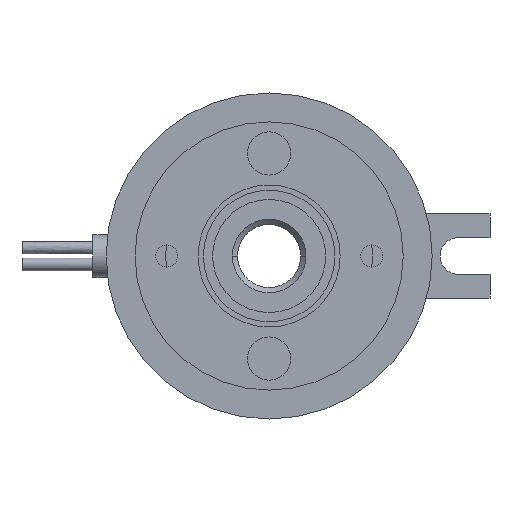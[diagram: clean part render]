
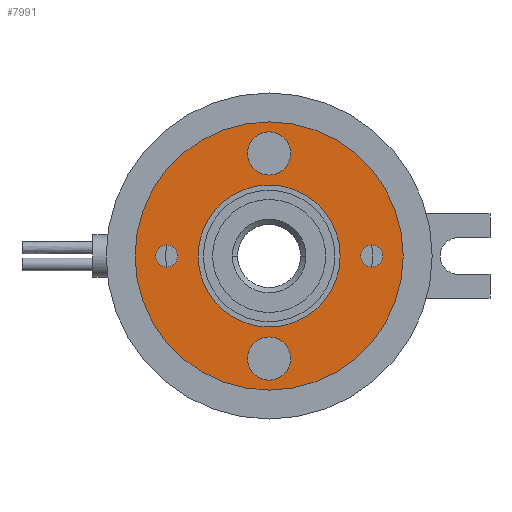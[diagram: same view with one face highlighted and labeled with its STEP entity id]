
A CAD part, left-side view. The second image highlights one B-rep face of the part: STEP entity #7991.
In plain terms, the highlighted planar face has unit normal (-1, 0, 0) as drawn and (0, 0, 1) by its records, which use the part's own axes.
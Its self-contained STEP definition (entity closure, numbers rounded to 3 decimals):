
#7573=CARTESIAN_POINT('',(-12.75,0.,0.15));
#7574=VERTEX_POINT('',#7573);
#7590=CARTESIAN_POINT('',(12.75,0.,0.15));
#7591=VERTEX_POINT('',#7590);
#7598=CARTESIAN_POINT('',(0.0,0.0,0.15));
#7599=DIRECTION('',(0.0,0.0,-1.0));
#7600=DIRECTION('',(-1.0,0.0,0.0));
#7601=AXIS2_PLACEMENT_3D('',#7598,#7599,#7600);
#7602=CIRCLE('',#7601,12.75);
#7603=EDGE_CURVE('',#7591,#7574,#7602,.T.);
#7613=CARTESIAN_POINT('',(-6.75,0.,0.15));
#7614=VERTEX_POINT('',#7613);
#7623=CARTESIAN_POINT('',(6.75,0.,0.15));
#7624=VERTEX_POINT('',#7623);
#7625=CARTESIAN_POINT('',(0.0,0.0,0.15));
#7626=DIRECTION('',(0.0,0.0,-1.0));
#7627=DIRECTION('',(-1.0,0.0,0.0));
#7628=AXIS2_PLACEMENT_3D('',#7625,#7626,#7627);
#7629=CIRCLE('',#7628,6.75);
#7630=EDGE_CURVE('',#7624,#7614,#7629,.T.);
#7657=CARTESIAN_POINT('',(-1.05,9.75,0.15));
#7658=VERTEX_POINT('',#7657);
#7674=CARTESIAN_POINT('',(1.05,9.75,0.15));
#7675=VERTEX_POINT('',#7674);
#7682=CARTESIAN_POINT('',(0.0,9.75,0.15));
#7683=DIRECTION('',(0.0,0.0,-1.0));
#7684=DIRECTION('',(-1.0,0.0,0.0));
#7685=AXIS2_PLACEMENT_3D('',#7682,#7683,#7684);
#7686=CIRCLE('',#7685,1.05);
#7687=EDGE_CURVE('',#7658,#7675,#7686,.T.);
#7699=CARTESIAN_POINT('',(9.75,1.05,0.15));
#7700=VERTEX_POINT('',#7699);
#7716=CARTESIAN_POINT('',(9.75,-1.05,0.15));
#7717=VERTEX_POINT('',#7716);
#7724=CARTESIAN_POINT('',(9.75,0.,0.15));
#7725=DIRECTION('',(0.0,0.0,-1.0));
#7726=DIRECTION('',(0.0,1.0,0.0));
#7727=AXIS2_PLACEMENT_3D('',#7724,#7725,#7726);
#7728=CIRCLE('',#7727,1.05);
#7729=EDGE_CURVE('',#7700,#7717,#7728,.T.);
#7741=CARTESIAN_POINT('',(-9.75,-1.05,0.15));
#7742=VERTEX_POINT('',#7741);
#7758=CARTESIAN_POINT('',(-9.75,1.05,0.15));
#7759=VERTEX_POINT('',#7758);
#7766=CARTESIAN_POINT('',(-9.75,0.,0.15));
#7767=DIRECTION('',(0.0,0.0,-1.0));
#7768=DIRECTION('',(0.0,-1.0,0.0));
#7769=AXIS2_PLACEMENT_3D('',#7766,#7767,#7768);
#7770=CIRCLE('',#7769,1.05);
#7771=EDGE_CURVE('',#7742,#7759,#7770,.T.);
#7783=CARTESIAN_POINT('',(1.05,-9.75,0.15));
#7784=VERTEX_POINT('',#7783);
#7800=CARTESIAN_POINT('',(-1.05,-9.75,0.15));
#7801=VERTEX_POINT('',#7800);
#7808=CARTESIAN_POINT('',(0.,-9.75,0.15));
#7809=DIRECTION('',(0.0,0.0,-1.0));
#7810=DIRECTION('',(1.0,0.0,0.0));
#7811=AXIS2_PLACEMENT_3D('',#7808,#7809,#7810);
#7812=CIRCLE('',#7811,1.05);
#7813=EDGE_CURVE('',#7784,#7801,#7812,.T.);
#7824=CARTESIAN_POINT('',(0.,-9.75,0.15));
#7825=DIRECTION('',(0.0,0.0,-1.0));
#7826=DIRECTION('',(1.0,0.0,0.0));
#7827=AXIS2_PLACEMENT_3D('',#7824,#7825,#7826);
#7828=CIRCLE('',#7827,1.05);
#7829=EDGE_CURVE('',#7801,#7784,#7828,.T.);
#7848=CARTESIAN_POINT('',(-9.75,0.,0.15));
#7849=DIRECTION('',(0.0,0.0,-1.0));
#7850=DIRECTION('',(0.0,-1.0,0.0));
#7851=AXIS2_PLACEMENT_3D('',#7848,#7849,#7850);
#7852=CIRCLE('',#7851,1.05);
#7853=EDGE_CURVE('',#7759,#7742,#7852,.T.);
#7872=CARTESIAN_POINT('',(9.75,0.,0.15));
#7873=DIRECTION('',(0.0,0.0,-1.0));
#7874=DIRECTION('',(0.0,1.0,0.0));
#7875=AXIS2_PLACEMENT_3D('',#7872,#7873,#7874);
#7876=CIRCLE('',#7875,1.05);
#7877=EDGE_CURVE('',#7717,#7700,#7876,.T.);
#7896=CARTESIAN_POINT('',(0.0,9.75,0.15));
#7897=DIRECTION('',(0.0,0.0,-1.0));
#7898=DIRECTION('',(-1.0,0.0,0.0));
#7899=AXIS2_PLACEMENT_3D('',#7896,#7897,#7898);
#7900=CIRCLE('',#7899,1.05);
#7901=EDGE_CURVE('',#7675,#7658,#7900,.T.);
#7928=CARTESIAN_POINT('',(0.0,0.0,0.15));
#7929=DIRECTION('',(0.0,0.0,-1.0));
#7930=DIRECTION('',(-1.0,0.0,0.0));
#7931=AXIS2_PLACEMENT_3D('',#7928,#7929,#7930);
#7932=CIRCLE('',#7931,6.75);
#7933=EDGE_CURVE('',#7614,#7624,#7932,.T.);
#7944=CARTESIAN_POINT('',(0.0,0.0,0.15));
#7945=DIRECTION('',(0.0,0.0,-1.0));
#7946=DIRECTION('',(-1.0,0.0,0.0));
#7947=AXIS2_PLACEMENT_3D('',#7944,#7945,#7946);
#7948=CIRCLE('',#7947,12.75);
#7949=EDGE_CURVE('',#7574,#7591,#7948,.T.);
#7962=CARTESIAN_POINT('',(0.0,0.0,0.15));
#7963=DIRECTION('',(0.0,0.0,-1.0));
#7964=DIRECTION('',(-1.0,0.0,0.0));
#7965=AXIS2_PLACEMENT_3D('',#7962,#7963,#7964);
#7966=PLANE('',#7965);
#7967=ORIENTED_EDGE('',*,*,#7603,.F.);
#7968=ORIENTED_EDGE('',*,*,#7949,.F.);
#7969=EDGE_LOOP('',(#7967,#7968));
#7970=FACE_OUTER_BOUND('',#7969,.T.);
#7971=ORIENTED_EDGE('',*,*,#7829,.T.);
#7972=ORIENTED_EDGE('',*,*,#7813,.T.);
#7973=EDGE_LOOP('',(#7971,#7972));
#7974=FACE_BOUND('',#7973,.T.);
#7975=ORIENTED_EDGE('',*,*,#7853,.T.);
#7976=ORIENTED_EDGE('',*,*,#7771,.T.);
#7977=EDGE_LOOP('',(#7975,#7976));
#7978=FACE_BOUND('',#7977,.T.);
#7979=ORIENTED_EDGE('',*,*,#7877,.T.);
#7980=ORIENTED_EDGE('',*,*,#7729,.T.);
#7981=EDGE_LOOP('',(#7979,#7980));
#7982=FACE_BOUND('',#7981,.T.);
#7983=ORIENTED_EDGE('',*,*,#7901,.T.);
#7984=ORIENTED_EDGE('',*,*,#7687,.T.);
#7985=EDGE_LOOP('',(#7983,#7984));
#7986=FACE_BOUND('',#7985,.T.);
#7987=ORIENTED_EDGE('',*,*,#7630,.T.);
#7988=ORIENTED_EDGE('',*,*,#7933,.T.);
#7989=EDGE_LOOP('',(#7987,#7988));
#7990=FACE_BOUND('',#7989,.T.);
#7991=ADVANCED_FACE('',(#7970,#7974,#7978,#7982,#7986,#7990),#7966,.F.);
